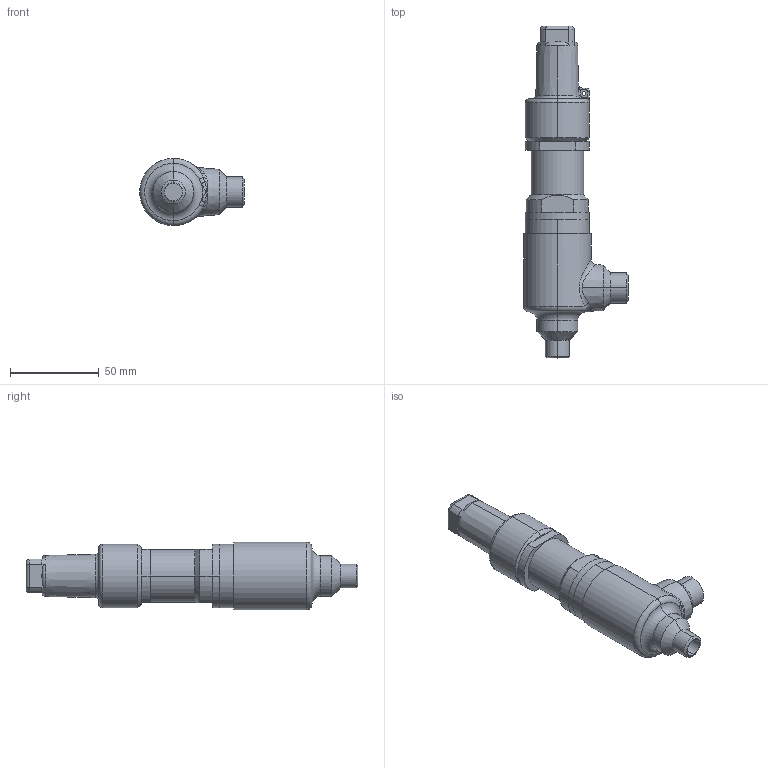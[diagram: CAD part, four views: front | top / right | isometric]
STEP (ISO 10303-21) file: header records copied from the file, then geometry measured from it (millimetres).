
FILE_DESCRIPTION (( 'STEP AP214' ), '1' );
FILE_NAME ('UVUB 42400C07-DN 8-10_R1.STEP', '2010-09-10T08:02:40', ( 'Eckhard Grams' ), ( 'AWP Kälte Klima Armaturen GmbH' ), 'SwSTEP 2.0', 'SolidWorks 2002296', '' );
FILE_SCHEMA (( 'AUTOMOTIVE_DESIGN' ));
Length unit declared in the file: millimetre
Products named in the file (6): UVUB 42400C07-DN 8-10_R1; Klemmring 44551-07-DN 8-15_Standard; Einstellschr 44551-07-8080002_DN 8-15_Standard; Gehäuse42200E07-DN 8-10_PS40_R1_Standard; Deckel 44551-07-DN 8-15_PS40_Standard; Kappe 36302-10_DN6-15 (M27x1)_Standard
Assembly tree (5 placements, depth 2):
  UVUB 42400C07-DN 8-10_R1
    Gehäuse42200E07-DN 8-10_PS40_R1_Standard
    Kappe 36302-10_DN6-15 (M27x1)_Standard
    Einstellschr 44551-07-8080002_DN 8-15_Standard
    Deckel 44551-07-DN 8-15_PS40_Standard
    Klemmring 44551-07-DN 8-15_Standard
Bounding box: 59 x 187 x 38 mm (x, y, z)
Volume: 110162.8 mm3; surface area: 45683 mm2
Topology: 5 solids, 5 shells, 223 faces, 494 edges, 295 vertices
Faces by surface type: cylinder 90, plane 49, cone 37, torus 28, bspline 19
Entity records: 19764 total; most frequent: CARTESIAN_POINT 13932, DIRECTION 1101, ORIENTED_EDGE 988, EDGE_CURVE 494, AXIS2_PLACEMENT_3D 468, VERTEX_POINT 295, CIRCLE 256, EDGE_LOOP 249
